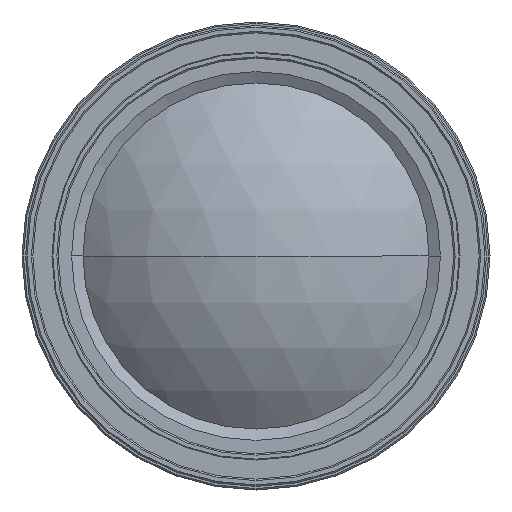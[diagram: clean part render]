
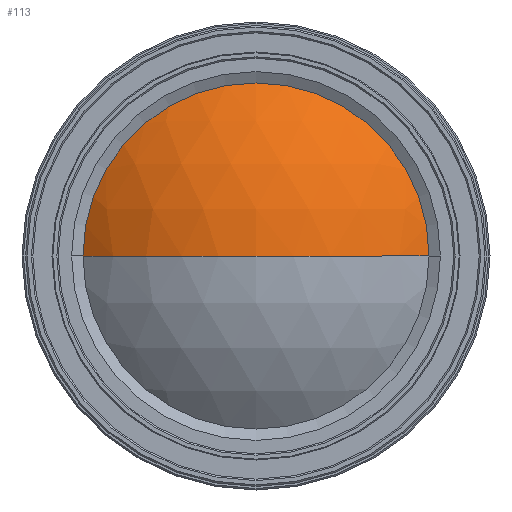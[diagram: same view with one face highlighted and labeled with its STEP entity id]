
A CAD part, left-side view. The second image highlights one B-rep face of the part: STEP entity #113.
In plain terms, the highlighted spherical face has radius 36.35 mm.
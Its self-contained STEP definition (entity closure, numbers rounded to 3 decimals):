
#113 = ADVANCED_FACE ( 'NONE', ( #2961 ), #2950, .T. ) ;
#166 = EDGE_CURVE ( 'NONE', #1854, #1842, #1222, .T. ) ;
#167 = EDGE_CURVE ( 'NONE', #1857, #1842, #1223, .T. ) ;
#168 = EDGE_CURVE ( 'NONE', #1857, #1854, #1219, .T. ) ;
#324 = AXIS2_PLACEMENT_3D ( 'NONE', #2163, #2162, #2167 ) ;
#358 = AXIS2_PLACEMENT_3D ( 'NONE', #2308, #2309, #2310 ) ;
#359 = AXIS2_PLACEMENT_3D ( 'NONE', #2311, #2312, #2313 ) ;
#360 = AXIS2_PLACEMENT_3D ( 'NONE', #2314, #2315, #2316 ) ;
#827 = CARTESIAN_POINT ( 'NONE',  ( -65.862, -23.85, 0. ) ) ;
#839 = CARTESIAN_POINT ( 'NONE',  ( -65.862, 23.85, 0. ) ) ;
#842 = CARTESIAN_POINT ( 'NONE',  ( -74.78, 0., 0. ) ) ;
#1219 = CIRCLE ( 'NONE', #360, 36.35 ) ;
#1222 = CIRCLE ( 'NONE', #358, 23.85 ) ;
#1223 = CIRCLE ( 'NONE', #359, 36.35 ) ;
#1568 = ORIENTED_EDGE ( 'NONE', *, *, #166, .F. ) ;
#1842 = VERTEX_POINT ( 'NONE', #827 ) ;
#1854 = VERTEX_POINT ( 'NONE', #839 ) ;
#1857 = VERTEX_POINT ( 'NONE', #842 ) ;
#1896 = ORIENTED_EDGE ( 'NONE', *, *, #168, .F. ) ;
#1962 = ORIENTED_EDGE ( 'NONE', *, *, #167, .T. ) ;
#2162 = DIRECTION ( 'NONE',  ( 0., 0., 1. ) ) ;
#2163 = CARTESIAN_POINT ( 'NONE',  ( -38.43, 0., 0. ) ) ;
#2167 = DIRECTION ( 'NONE',  ( 0., 1., 0. ) ) ;
#2308 = CARTESIAN_POINT ( 'NONE',  ( -65.862, 0., 0. ) ) ;
#2309 = DIRECTION ( 'NONE',  ( 1., 0., 0. ) ) ;
#2310 = DIRECTION ( 'NONE',  ( 0., 1., 0. ) ) ;
#2311 = CARTESIAN_POINT ( 'NONE',  ( -38.43, 0., 0. ) ) ;
#2312 = DIRECTION ( 'NONE',  ( 0., 0., 1. ) ) ;
#2313 = DIRECTION ( 'NONE',  ( 0., -1., 0. ) ) ;
#2314 = CARTESIAN_POINT ( 'NONE',  ( -38.43, 0., 0. ) ) ;
#2315 = DIRECTION ( 'NONE',  ( 0., 0., -1. ) ) ;
#2316 = DIRECTION ( 'NONE',  ( -1., 0., 0. ) ) ;
#2577 = EDGE_LOOP ( 'NONE', ( #1896, #1962, #1568 ) ) ;
#2950 = SPHERICAL_SURFACE ( 'NONE', #324, 36.35 ) ;
#2961 = FACE_OUTER_BOUND ( 'NONE', #2577, .T. ) ;
